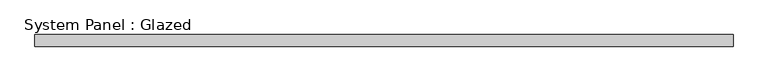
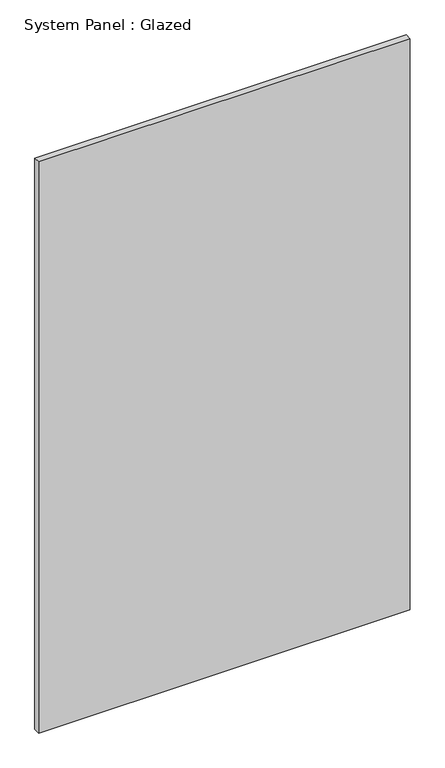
"""IFC4 building model written with IfcOpenShell, lengths in millimetres: plate geometry, System Panel : Glazed."""

from ifc_helpers import new_model, si_unit, origin, origin_with_axes, place, context, project, spatial, polyline, outline, extrude, source, transform, mapped, element, save


def system_panel_glazed_fb3082c3(model_context):
    return source(origin(), model_context, "Body", "SweptSolid", [
        extrude(outline(polyline([(723.3695652, 24.5), (-723.3695652, 24.5), (-723.3695652, 49.5), (723.3695652, 49.5), (723.3695652, 24.5)])), origin_with_axes(), (0.0, 0.0, 1.0), 2350.0),
    ])


if __name__ == "__main__":
    model = new_model("IFC4")
    model_context = context("Model", 3, world=origin())
    ifc_project = project(units=[si_unit("LENGTHUNIT", "METRE", prefix="MILLI")], contexts=[model_context])
    site = spatial("IfcSite", under=ifc_project)
    building = spatial("IfcBuilding", under=site)
    placement = place(None, origin())
    system_panel_glazed_shape = system_panel_glazed_fb3082c3(model_context)
    element("IfcPlate", 1, ObjectType="System Panel : Glazed", at=placement, inside=building, context=model_context, shape_type="MappedRepresentation", body=[
        mapped(system_panel_glazed_shape, transform((0.0, 0.0, 0.0), x_axis=(1.0, 0.0, 0.0), y_axis=(0.0, 1.0, 0.0), z_axis=(0.0, 0.0, 1.0))),
    ])
    save(model, "model.ifc")
